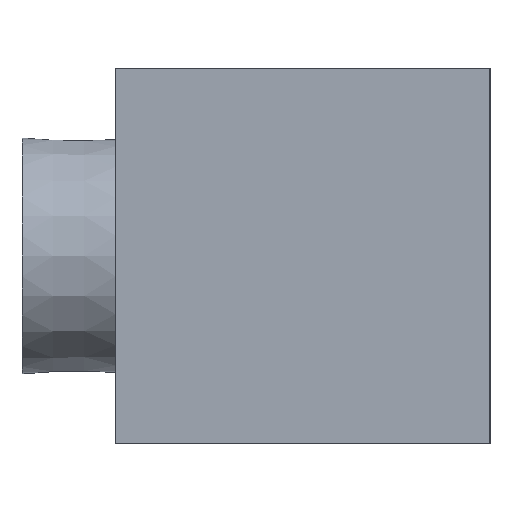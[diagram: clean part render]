
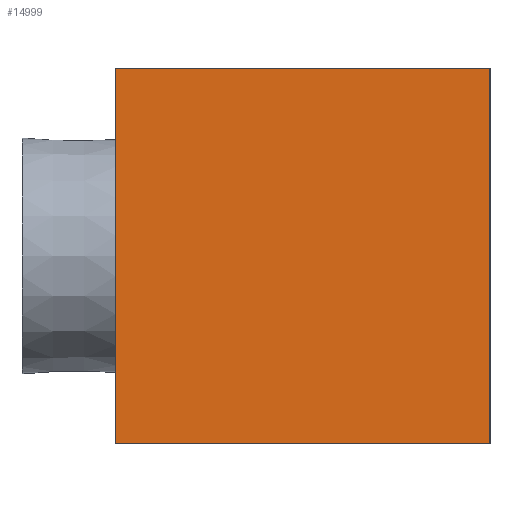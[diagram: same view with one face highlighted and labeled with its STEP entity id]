
A CAD part, left-side view. The second image highlights one B-rep face of the part: STEP entity #14999.
In plain terms, the highlighted planar face has unit normal (-1, 0, 0).
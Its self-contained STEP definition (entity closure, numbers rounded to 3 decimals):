
#2084=PLANE('',#15363);
#2970=LINE('',#30560,#3878);
#2990=LINE('',#30789,#3898);
#2996=LINE('',#30800,#3904);
#2997=LINE('',#30802,#3905);
#3878=VECTOR('',#16797,10.);
#3898=VECTOR('',#16933,10.);
#3904=VECTOR('',#16943,10.);
#3905=VECTOR('',#16946,10.);
#4775=FACE_OUTER_BOUND('',#5664,.T.);
#5664=EDGE_LOOP('',(#14067,#14068,#14069,#14070));
#7259=VERTEX_POINT('',#30558);
#7260=VERTEX_POINT('',#30559);
#7295=VERTEX_POINT('',#30788);
#7298=VERTEX_POINT('',#30798);
#9507=EDGE_CURVE('',#7259,#7260,#2970,.T.);
#9559=EDGE_CURVE('',#7259,#7295,#2990,.T.);
#9565=EDGE_CURVE('',#7260,#7298,#2996,.T.);
#9566=EDGE_CURVE('',#7295,#7298,#2997,.T.);
#14067=ORIENTED_EDGE('',*,*,#9507,.T.);
#14068=ORIENTED_EDGE('',*,*,#9565,.T.);
#14069=ORIENTED_EDGE('',*,*,#9566,.F.);
#14070=ORIENTED_EDGE('',*,*,#9559,.F.);
#14999=ADVANCED_FACE('',(#4775),#2084,.T.);
#15363=AXIS2_PLACEMENT_3D('',#30801,#16944,#16945);
#16797=DIRECTION('',(0.,-1.,0.));
#16933=DIRECTION('',(0.,0.,1.));
#16943=DIRECTION('',(0.,0.,1.));
#16944=DIRECTION('center_axis',(-1.,0.,0.));
#16945=DIRECTION('ref_axis',(0.,-1.,0.));
#16946=DIRECTION('',(0.,-1.,0.));
#30558=CARTESIAN_POINT('',(0.,25.4,0.));
#30559=CARTESIAN_POINT('',(0.,0.,0.));
#30560=CARTESIAN_POINT('',(0.,25.4,0.));
#30788=CARTESIAN_POINT('',(0.,25.4,25.4));
#30789=CARTESIAN_POINT('',(0.,25.4,0.));
#30798=CARTESIAN_POINT('',(0.,0.,25.4));
#30800=CARTESIAN_POINT('',(0.,0.,0.));
#30801=CARTESIAN_POINT('Origin',(0.,25.4,0.));
#30802=CARTESIAN_POINT('',(0.,25.4,25.4));
